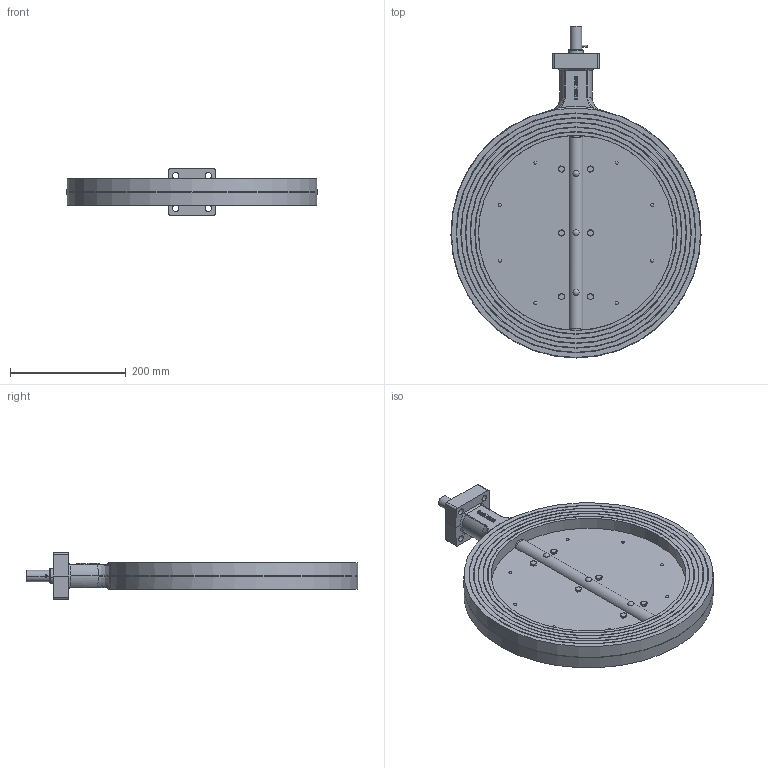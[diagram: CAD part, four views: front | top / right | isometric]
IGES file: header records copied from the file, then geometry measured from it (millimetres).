
Global section: file name: No Iges File Name specified; native system: AutoDesk Inventor R12.0; preprocessor: AutoDesk Inventor Iges Exporter R12.0; date: 20100826.124929; units: millimetre
Bounding box: 431.65 x 572.87 x 80 mm (x, y, z)
Volume: 3303590.3 mm3; surface area: 610627.7 mm2
Topology: 1 solids, 1 shells, 722 faces, 1822 edges, 1168 vertices
Faces by surface type: plane 309, bspline 115, cone 106, cylinder 100, revolution 69, sphere 22, torus 1
